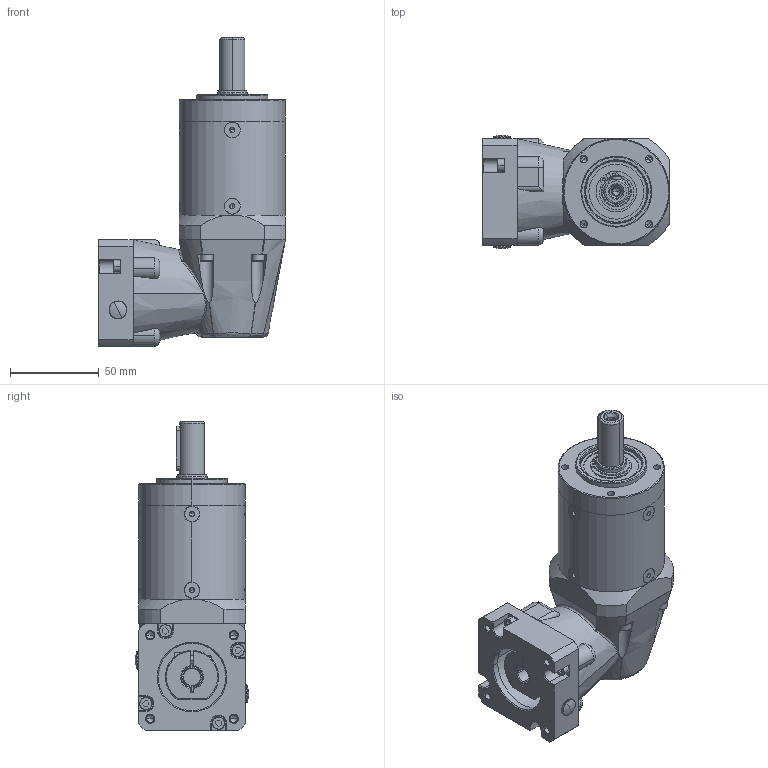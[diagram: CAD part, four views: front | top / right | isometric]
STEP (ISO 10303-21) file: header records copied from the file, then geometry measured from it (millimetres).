
FILE_DESCRIPTION (( 'STEP AP214' ), '1' );
FILE_NAME ('GSLR-060-0_ _-N023_-XX Two Stage.STEP', '2025-08-26T15:07:27', ( '' ), ( '' ), 'SwSTEP 2.0', 'SolidWorks 2020', '' );
FILE_SCHEMA (( 'AUTOMOTIVE_DESIGN' ));
Length unit declared in the file: millimetre
Products named in the file (1): GSLR-060-0_ _-N023_-XX Two Stage
Bounding box: 105.5 x 63.92 x 174.02 mm (x, y, z)
Volume: 311917.4 mm3; surface area: 144949.4 mm2
Topology: 50 solids, 50 shells, 1700 faces, 4424 edges, 2740 vertices
Faces by surface type: bspline 518, cylinder 481, plane 424, cone 277
Entity records: 70996 total; most frequent: CARTESIAN_POINT 32098, ORIENTED_EDGE 8564, DIRECTION 7396, EDGE_CURVE 4282, AXIS2_PLACEMENT_3D 3087, VERTEX_POINT 2740, EDGE_LOOP 1922, CIRCLE 1904
